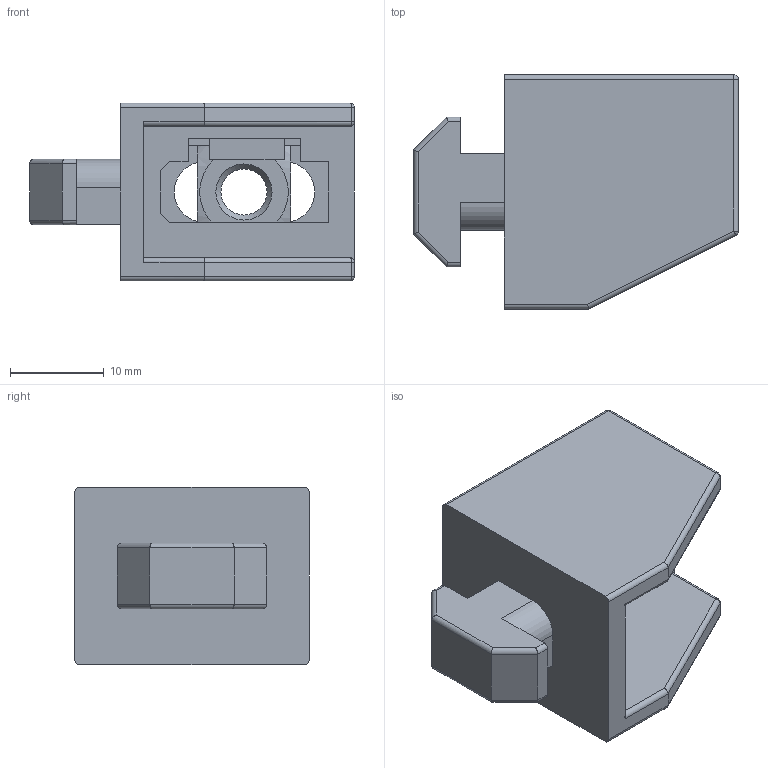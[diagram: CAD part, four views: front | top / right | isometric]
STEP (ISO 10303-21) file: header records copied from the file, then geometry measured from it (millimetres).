
FILE_DESCRIPTION((''),'2;1');
FILE_NAME('E:\catalogue and flyer\Profile catalogue 2015\Accessories ACC info\Accessories ACC step file 31Mar16\ACC-MB94002-8.stp','2016-04-07T14:55:11',('h029'),(''),'Autodesk Inventor 11','Autodesk Inventor 11','');
FILE_SCHEMA(('AUTOMOTIVE_DESIGN { 1 0 10303 214 1 1 1 1 }'));
Length unit declared in the file: millimetre
Products named in the file (3): Multi-Block_4040(Full); Multi-Block_4040; Washer
Assembly tree (2 placements, depth 2):
  Multi-Block_4040(Full)
    Multi-Block_4040
    Washer
Bounding box: 34.7 x 25 x 19 mm (x, y, z)
Volume: 6030.9 mm3; surface area: 4921.2 mm2
Topology: 2 solids, 2 shells, 109 faces, 277 edges, 169 vertices
Faces by surface type: plane 61, cylinder 33, bspline 7, sphere 6, torus 2
Entity records: 3442 total; most frequent: CARTESIAN_POINT 773, DIRECTION 539, ORIENTED_EDGE 530, EDGE_CURVE 265, VECTOR 197, LINE 197, AXIS2_PLACEMENT_3D 171, VERTEX_POINT 168
